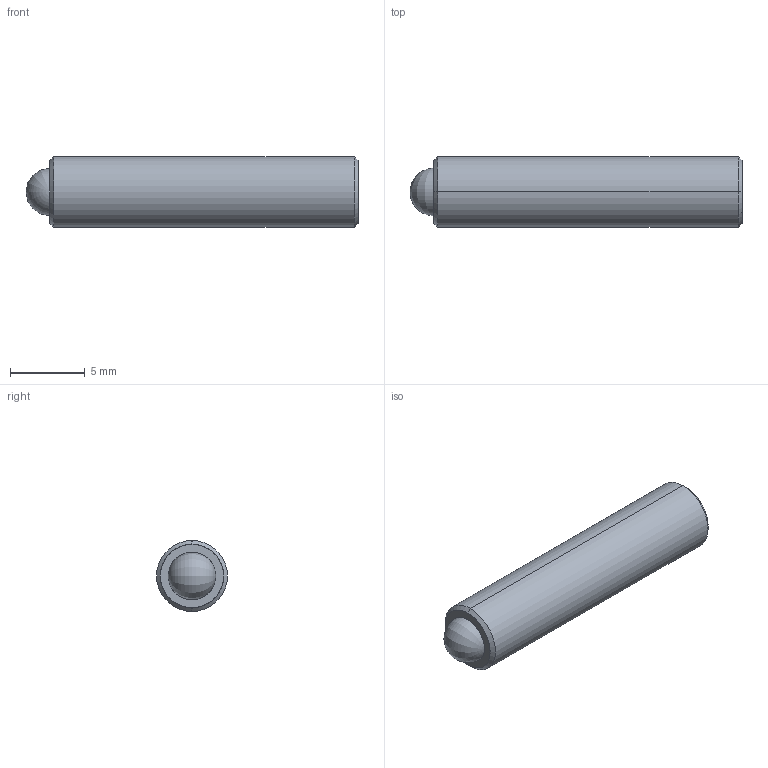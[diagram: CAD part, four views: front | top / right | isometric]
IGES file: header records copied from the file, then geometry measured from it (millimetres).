
Start section: SolidWorks IGES file using analytic representation for surfaces
Global section: file name: C:\Users\workpc\Desktop\KMA Solidworks\TS187-100-875.IGS; native system: SolidWorks 2013; preprocessor: SolidWorks 2013; author: workpc; date: 130211.105857; units: inch
Bounding box: 22.22 x 4.75 x 4.75 mm (x, y, z)
Surface area: 402 mm2 (no closed solid volume)
Topology: 0 solids, 0 shells, 20 faces, 204 edges, 200 vertices
Faces by surface type: revolution 10, bspline 10
